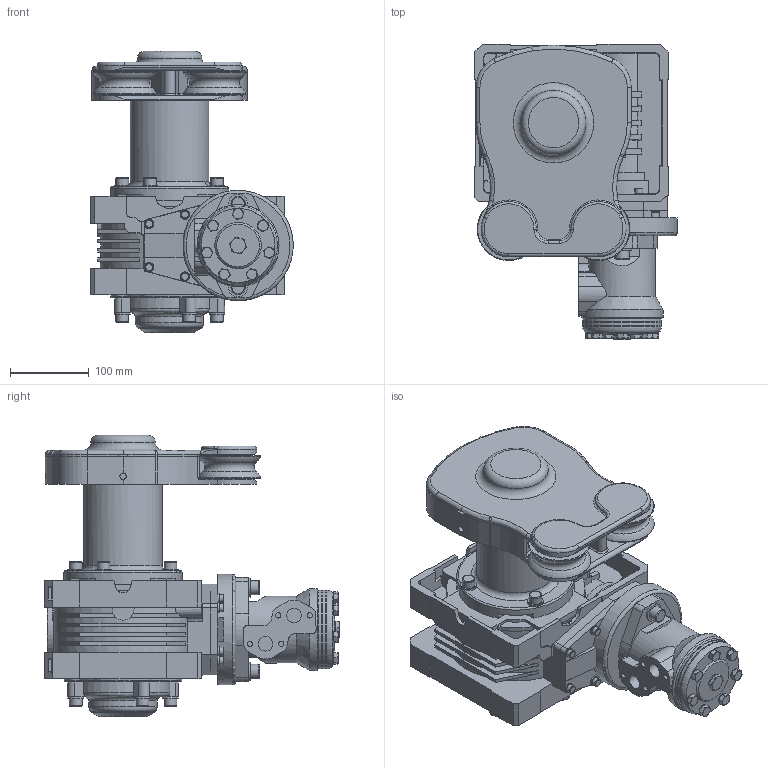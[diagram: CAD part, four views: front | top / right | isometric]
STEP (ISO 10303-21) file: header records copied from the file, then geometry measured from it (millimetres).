
FILE_DESCRIPTION(/* description */ (''),/* implementation_level */ '2;1');
FILE_NAME(/* name */ '\\ANTALSRV\Inventor\Winch\Regolatore\Motorizzato\Assiemi\LD1500 HD.stp',/* time_stamp */ '2016-05-10T08:44:54+02:00',/* author */ ('Nicola'),/* organization */ (''),/* preprocessor_version */ 'ST-DEVELOPER v16.1',/* originating_system */ 'Autodesk Inventor 2016',/* authorisation */ '');
FILE_SCHEMA (('AUTOMOTIVE_DESIGN { 1 0 10303 214 3 1 1 }'));
Length unit declared in the file: millimetre
Products named in the file (1): LD1500 HD
Bounding box: 256.88 x 375.1 x 357 mm (x, y, z)
Volume: 10157009 mm3; surface area: 623995.6 mm2
Topology: 1 solids, 1 shells, 981 faces, 2558 edges, 1618 vertices
Faces by surface type: plane 548, cylinder 260, torus 126, bspline 24, cone 19, sphere 4
Full cylindrical faces by diameter (mm): 6.647 x4, 8 x3, 8.25 x4, 10 x7, 12 x7, 13 x9, 15 x4, 16 x8, 18 x3, 18.631 x2, 20 x8, 24 x2, 100 x3, 104 x1, 140 x1, 150 x1, 184 x1
Entity records: 31073 total; most frequent: CARTESIAN_POINT 7521, DIRECTION 4951, ORIENTED_EDGE 4800, EDGE_CURVE 2400, AXIS2_PLACEMENT_3D 1822, VERTEX_POINT 1573, LINE 1307, VECTOR 1307
